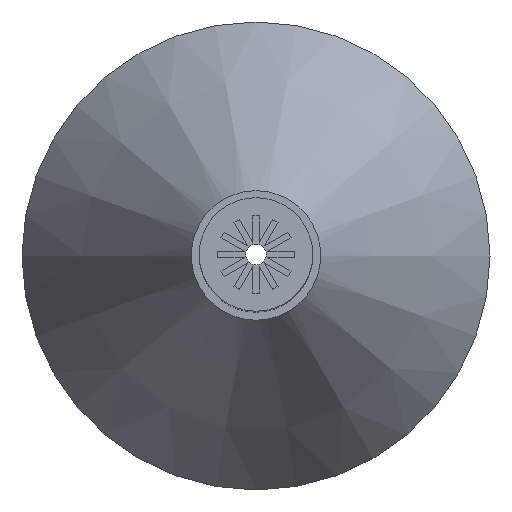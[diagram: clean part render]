
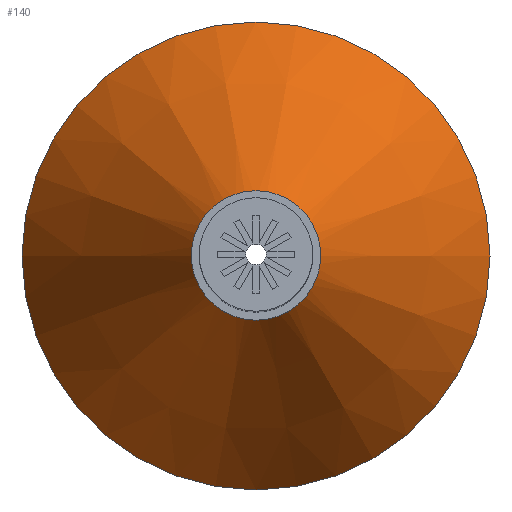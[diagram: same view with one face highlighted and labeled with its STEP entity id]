
A CAD part, top view. The second image highlights one B-rep face of the part: STEP entity #140.
In plain terms, the highlighted conical face has half-angle 30.964 degrees and reference radius 20.6 mm.
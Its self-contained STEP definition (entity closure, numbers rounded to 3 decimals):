
#93 = PLANE('',#94);
#94 = AXIS2_PLACEMENT_3D('',#95,#96,#97);
#95 = CARTESIAN_POINT('',(0.,0.,137.));
#96 = DIRECTION('',(0.,0.,1.));
#97 = DIRECTION('',(1.,0.,-0.));
#112 = EDGE_CURVE('',#113,#113,#115,.T.);
#113 = VERTEX_POINT('',#114);
#114 = CARTESIAN_POINT('',(5.,0.,137.));
#115 = SURFACE_CURVE('',#116,(#121,#128),.PCURVE_S1.);
#116 = CIRCLE('',#117,5.);
#117 = AXIS2_PLACEMENT_3D('',#118,#119,#120);
#118 = CARTESIAN_POINT('',(0.,0.,137.));
#119 = DIRECTION('',(0.,0.,1.));
#120 = DIRECTION('',(1.,0.,-0.));
#121 = PCURVE('',#93,#122);
#122 = DEFINITIONAL_REPRESENTATION('',(#123),#127);
#123 = CIRCLE('',#124,5.);
#124 = AXIS2_PLACEMENT_2D('',#125,#126);
#125 = CARTESIAN_POINT('',(0.,0.));
#126 = DIRECTION('',(1.,0.));
#127 = ( GEOMETRIC_REPRESENTATION_CONTEXT(2) 
PARAMETRIC_REPRESENTATION_CONTEXT() REPRESENTATION_CONTEXT('2D SPACE',''
  ) );
#128 = PCURVE('',#129,#134);
#129 = CONICAL_SURFACE('',#130,20.6,0.54);
#130 = AXIS2_PLACEMENT_3D('',#131,#132,#133);
#131 = CARTESIAN_POINT('',(0.,0.,111.));
#132 = DIRECTION('',(-0.,-0.,-1.));
#133 = DIRECTION('',(1.,0.,-0.));
#134 = DEFINITIONAL_REPRESENTATION('',(#135),#139);
#135 = LINE('',#136,#137);
#136 = CARTESIAN_POINT('',(-0.,-26.));
#137 = VECTOR('',#138,1.);
#138 = DIRECTION('',(-1.,-0.));
#139 = ( GEOMETRIC_REPRESENTATION_CONTEXT(2) 
PARAMETRIC_REPRESENTATION_CONTEXT() REPRESENTATION_CONTEXT('2D SPACE',''
  ) );
#140 = ADVANCED_FACE('',(#141),#129,.T.);
#141 = FACE_BOUND('',#142,.T.);
#142 = EDGE_LOOP('',(#143,#144,#167,#193));
#143 = ORIENTED_EDGE('',*,*,#112,.F.);
#144 = ORIENTED_EDGE('',*,*,#145,.F.);
#145 = EDGE_CURVE('',#146,#113,#148,.T.);
#146 = VERTEX_POINT('',#147);
#147 = CARTESIAN_POINT('',(20.6,0.,111.));
#148 = SEAM_CURVE('',#149,(#153,#160),.PCURVE_S1.);
#149 = LINE('',#150,#151);
#150 = CARTESIAN_POINT('',(20.6,0.,111.));
#151 = VECTOR('',#152,1.);
#152 = DIRECTION('',(-0.514,0.,0.857)
  );
#153 = PCURVE('',#129,#154);
#154 = DEFINITIONAL_REPRESENTATION('',(#155),#159);
#155 = LINE('',#156,#157);
#156 = CARTESIAN_POINT('',(-6.283,0.));
#157 = VECTOR('',#158,1.);
#158 = DIRECTION('',(-0.,-1.));
#159 = ( GEOMETRIC_REPRESENTATION_CONTEXT(2) 
PARAMETRIC_REPRESENTATION_CONTEXT() REPRESENTATION_CONTEXT('2D SPACE',''
  ) );
#160 = PCURVE('',#129,#161);
#161 = DEFINITIONAL_REPRESENTATION('',(#162),#166);
#162 = LINE('',#163,#164);
#163 = CARTESIAN_POINT('',(0.,-0.));
#164 = VECTOR('',#165,1.);
#165 = DIRECTION('',(-0.,-1.));
#166 = ( GEOMETRIC_REPRESENTATION_CONTEXT(2) 
PARAMETRIC_REPRESENTATION_CONTEXT() REPRESENTATION_CONTEXT('2D SPACE',''
  ) );
#167 = ORIENTED_EDGE('',*,*,#168,.T.);
#168 = EDGE_CURVE('',#146,#146,#169,.T.);
#169 = SURFACE_CURVE('',#170,(#175,#181),.PCURVE_S1.);
#170 = CIRCLE('',#171,20.6);
#171 = AXIS2_PLACEMENT_3D('',#172,#173,#174);
#172 = CARTESIAN_POINT('',(0.,0.,111.));
#173 = DIRECTION('',(0.,0.,1.));
#174 = DIRECTION('',(1.,0.,-0.));
#175 = PCURVE('',#129,#176);
#176 = DEFINITIONAL_REPRESENTATION('',(#177),#180);
#177 = B_SPLINE_CURVE_WITH_KNOTS('',1,(#178,#179),.UNSPECIFIED.,.F.,.F.,
  (2,2),(0.,6.283),.PIECEWISE_BEZIER_KNOTS.);
#178 = CARTESIAN_POINT('',(0.,0.));
#179 = CARTESIAN_POINT('',(-6.283,0.));
#180 = ( GEOMETRIC_REPRESENTATION_CONTEXT(2) 
PARAMETRIC_REPRESENTATION_CONTEXT() REPRESENTATION_CONTEXT('2D SPACE',''
  ) );
#181 = PCURVE('',#182,#187);
#182 = CONICAL_SURFACE('',#183,19.8,0.261);
#183 = AXIS2_PLACEMENT_3D('',#184,#185,#186);
#184 = CARTESIAN_POINT('',(0.,0.,108.));
#185 = DIRECTION('',(0.,0.,1.));
#186 = DIRECTION('',(1.,0.,-0.));
#187 = DEFINITIONAL_REPRESENTATION('',(#188),#192);
#188 = LINE('',#189,#190);
#189 = CARTESIAN_POINT('',(0.,3.));
#190 = VECTOR('',#191,1.);
#191 = DIRECTION('',(1.,0.));
#192 = ( GEOMETRIC_REPRESENTATION_CONTEXT(2) 
PARAMETRIC_REPRESENTATION_CONTEXT() REPRESENTATION_CONTEXT('2D SPACE',''
  ) );
#193 = ORIENTED_EDGE('',*,*,#145,.T.);
